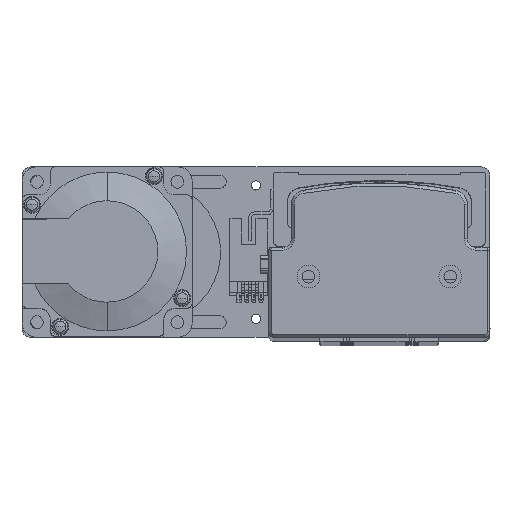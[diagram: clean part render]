
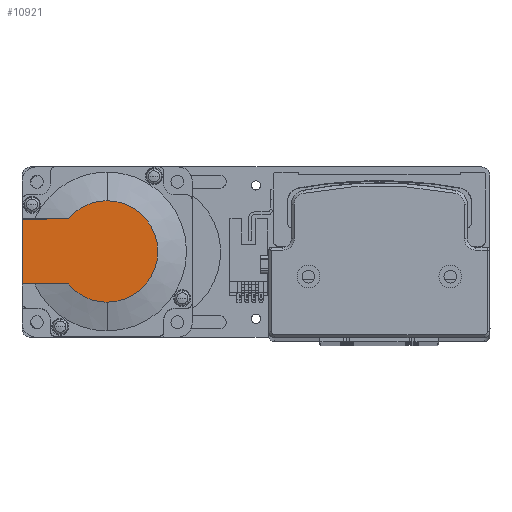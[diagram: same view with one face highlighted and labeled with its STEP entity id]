
A CAD part, top view. The second image highlights one B-rep face of the part: STEP entity #10921.
In plain terms, the highlighted planar face has unit normal (0, 0, 1) as drawn and (-1, 0, 0) by its records, which use the part's own axes.
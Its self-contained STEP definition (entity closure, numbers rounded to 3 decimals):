
#398 = ORIENTED_EDGE ( 'NONE', *, *, #44698, .T. ) ;
#651 = LINE ( 'NONE', #37021, #40722 ) ;
#670 = DIRECTION ( 'NONE',  ( 0., 0., -1. ) ) ;
#2020 = EDGE_CURVE ( 'NONE', #39743, #3597, #25626, .T. ) ;
#2712 = DIRECTION ( 'NONE',  ( -1., 0., 0. ) ) ;
#3161 = EDGE_CURVE ( 'NONE', #4432, #29681, #14102, .T. ) ;
#3372 = DIRECTION ( 'NONE',  ( 0., 0., 1. ) ) ;
#3597 = VERTEX_POINT ( 'NONE', #15064 ) ;
#4432 = VERTEX_POINT ( 'NONE', #48397 ) ;
#5180 = CARTESIAN_POINT ( 'NONE',  ( -118.5, 0., -17.881 ) ) ;
#7876 = AXIS2_PLACEMENT_3D ( 'NONE', #25900, #2712, #29850 ) ;
#8051 = CARTESIAN_POINT ( 'NONE',  ( -118.5, 30., 11.45 ) ) ;
#10258 = EDGE_CURVE ( 'NONE', #3597, #22108, #37317, .T. ) ;
#10692 = AXIS2_PLACEMENT_3D ( 'NONE', #22897, #50137, #26820 ) ;
#10921 = ADVANCED_FACE ( 'NONE', ( #45761 ), #34234, .T. ) ;
#12756 = EDGE_CURVE ( 'NONE', #29681, #22108, #651, .T. ) ;
#13023 = VERTEX_POINT ( 'NONE', #27690 ) ;
#14102 = LINE ( 'NONE', #23481, #33466 ) ;
#15064 = CARTESIAN_POINT ( 'NONE',  ( -118.5, 0., 17.881 ) ) ;
#17656 = EDGE_LOOP ( 'NONE', ( #398, #38555, #48659, #26960, #34099, #23856 ) ) ;
#19636 = DIRECTION ( 'NONE',  ( 0., 0., 1. ) ) ;
#22108 = VERTEX_POINT ( 'NONE', #22970 ) ;
#22897 = CARTESIAN_POINT ( 'NONE',  ( -118.5, 0., 0. ) ) ;
#22970 = CARTESIAN_POINT ( 'NONE',  ( -118.5, 13.735, 11.45 ) ) ;
#23481 = CARTESIAN_POINT ( 'NONE',  ( -118.5, 30., 25. ) ) ;
#23856 = ORIENTED_EDGE ( 'NONE', *, *, #3161, .F. ) ;
#23909 = DIRECTION ( 'NONE',  ( -1., 0., 0. ) ) ;
#24943 = DIRECTION ( 'NONE',  ( 0., -1., 0. ) ) ;
#25626 = CIRCLE ( 'NONE', #7876, 17.881 ) ;
#25900 = CARTESIAN_POINT ( 'NONE',  ( -118.5, 0., 0. ) ) ;
#26572 = DIRECTION ( 'NONE',  ( -1., 0., 0. ) ) ;
#26820 = DIRECTION ( 'NONE',  ( 0., 0., -1. ) ) ;
#26960 = ORIENTED_EDGE ( 'NONE', *, *, #10258, .T. ) ;
#27690 = CARTESIAN_POINT ( 'NONE',  ( -118.5, 13.735, -11.45 ) ) ;
#29681 = VERTEX_POINT ( 'NONE', #8051 ) ;
#29850 = DIRECTION ( 'NONE',  ( 0., 0., -1. ) ) ;
#31798 = CIRCLE ( 'NONE', #37727, 17.881 ) ;
#32621 = EDGE_CURVE ( 'NONE', #13023, #39743, #31798, .T. ) ;
#33466 = VECTOR ( 'NONE', #19636, 1000. ) ;
#34099 = ORIENTED_EDGE ( 'NONE', *, *, #12756, .F. ) ;
#34234 = PLANE ( 'NONE',  #47724 ) ;
#37021 = CARTESIAN_POINT ( 'NONE',  ( -118.5, 0., 11.45 ) ) ;
#37317 = CIRCLE ( 'NONE', #10692, 17.881 ) ;
#37727 = AXIS2_PLACEMENT_3D ( 'NONE', #47201, #23909, #670 ) ;
#38555 = ORIENTED_EDGE ( 'NONE', *, *, #32621, .T. ) ;
#39479 = VECTOR ( 'NONE', #24943, 1000. ) ;
#39743 = VERTEX_POINT ( 'NONE', #5180 ) ;
#40722 = VECTOR ( 'NONE', #40948, 1000. ) ;
#40948 = DIRECTION ( 'NONE',  ( 0., -1., 0. ) ) ;
#44698 = EDGE_CURVE ( 'NONE', #4432, #13023, #49850, .T. ) ;
#45761 = FACE_OUTER_BOUND ( 'NONE', #17656, .T. ) ;
#47201 = CARTESIAN_POINT ( 'NONE',  ( -118.5, 0., 0. ) ) ;
#47724 = AXIS2_PLACEMENT_3D ( 'NONE', #49890, #26572, #3372 ) ;
#48253 = CARTESIAN_POINT ( 'NONE',  ( -118.5, -8.941, -11.45 ) ) ;
#48397 = CARTESIAN_POINT ( 'NONE',  ( -118.5, 30., -11.45 ) ) ;
#48659 = ORIENTED_EDGE ( 'NONE', *, *, #2020, .T. ) ;
#49850 = LINE ( 'NONE', #48253, #39479 ) ;
#49890 = CARTESIAN_POINT ( 'NONE',  ( -118.5, -8.941, 0. ) ) ;
#50137 = DIRECTION ( 'NONE',  ( -1., 0., 0. ) ) ;
